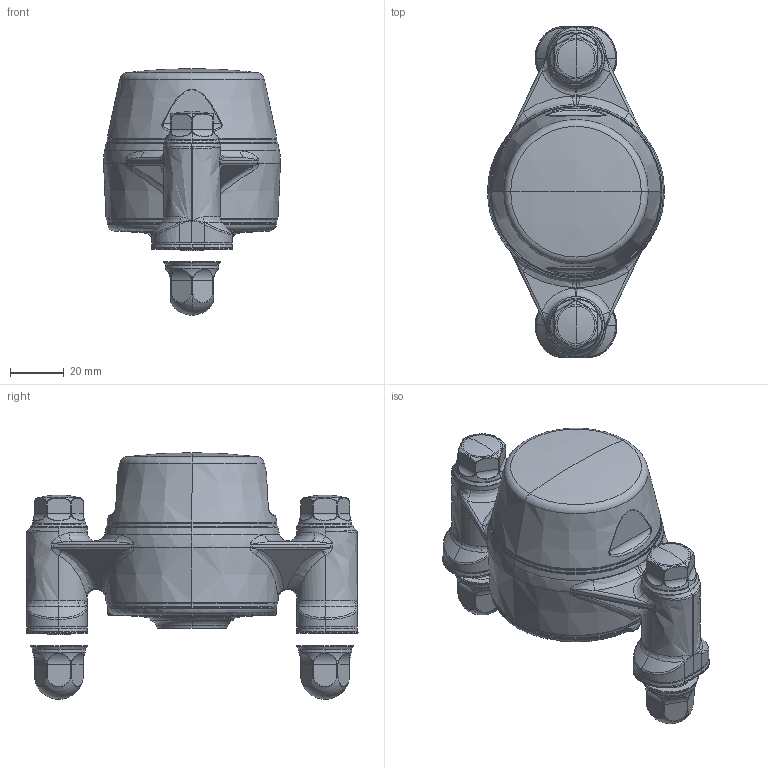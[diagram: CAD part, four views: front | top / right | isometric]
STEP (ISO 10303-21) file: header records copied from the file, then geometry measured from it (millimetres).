
FILE_DESCRIPTION (( 'STEP AP203' ), '1' );
FILE_NAME ('XB2FC52(White)-CSB2500(Front)-CL(White)-OS(White)-BXHM1050-NDXHM10_Shell.step', '2020-09-24T06:52:17', ( '' ), ( '' ), 'SwSTEP 2.0', 'SolidWorks 2019', '' );
FILE_SCHEMA (( 'CONFIG_CONTROL_DESIGN' ));
Length unit declared in the file: millimetre
Products named in the file (1): XB2FC52(White)-CSB2500(Front)-CL(White)-OS(White)-BXHM1050-NDXHM10_Shell
Bounding box: 65.77 x 123.4 x 91.65 mm (x, y, z)
Surface area: 39260.7 mm2 (no closed solid volume)
Topology: 0 solids, 36 shells, 854 faces, 2759 edges, 1879 vertices
Faces by surface type: bspline 357, cylinder 174, torus 118, plane 102, cone 73, sphere 30
Entity records: 50754 total; most frequent: CARTESIAN_POINT 30291, ORIENTED_EDGE 4482, DIRECTION 3333, EDGE_CURVE 2755, VERTEX_POINT 1879, AXIS2_PLACEMENT_3D 1404, B_SPLINE_CURVE_WITH_KNOTS 1258, EDGE_LOOP 918
